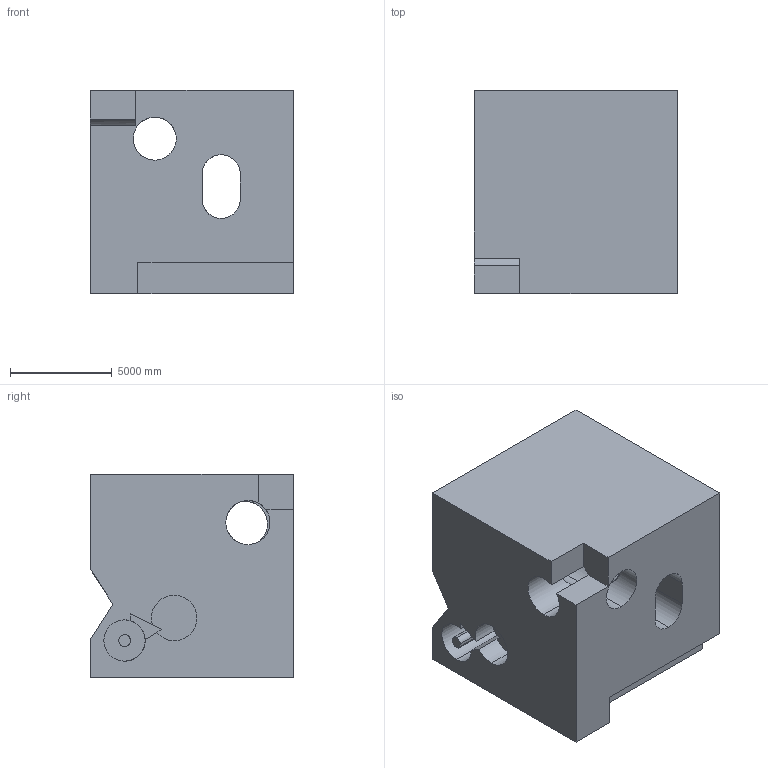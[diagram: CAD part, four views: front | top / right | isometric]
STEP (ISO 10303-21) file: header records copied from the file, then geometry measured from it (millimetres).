
FILE_DESCRIPTION (( 'STEP AP203' ), '1' );
FILE_NAME ('915.STEP', '2022-08-04T16:13:46', ( 'user' ), ( '' ), 'SwSTEP 2.0', 'SolidWorks 2021', '' );
FILE_SCHEMA (( 'CONFIG_CONTROL_DESIGN' ));
Length unit declared in the file: centimetre
Products named in the file (1): 915
Bounding box: 10000 x 10000 x 10000 mm (x, y, z)
Volume: 815236775614.5 mm3; surface area: 840763968.7 mm2
Topology: 1 solids, 1 shells, 47 faces, 141 edges, 94 vertices
Faces by surface type: plane 29, cylinder 18
Entity records: 2733 total; most frequent: CARTESIAN_POINT 1344, ORIENTED_EDGE 282, DIRECTION 269, EDGE_CURVE 141, VERTEX_POINT 94, AXIS2_PLACEMENT_3D 90, LINE 89, VECTOR 89
